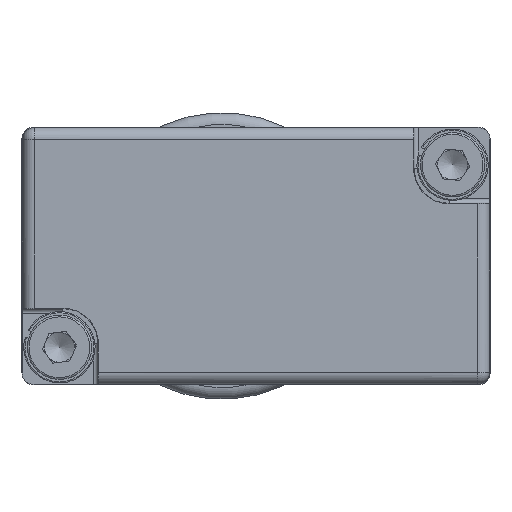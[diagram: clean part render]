
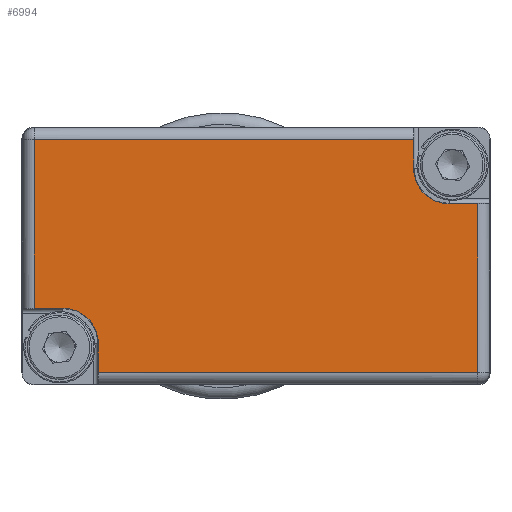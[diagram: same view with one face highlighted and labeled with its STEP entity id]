
A CAD part, left-side view. The second image highlights one B-rep face of the part: STEP entity #6994.
In plain terms, the highlighted planar face has unit normal (-1, 0, 0).
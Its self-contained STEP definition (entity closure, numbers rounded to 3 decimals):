
#14 = VECTOR ( 'NONE', #9544, 1000. ) ;
#22 = LINE ( 'NONE', #9568, #14 ) ;
#117 = EDGE_LOOP ( 'NONE', ( #3042, #3071, #3070, #3069, #3067, #3065, #3062, #3061, #3060, #3029 ) ) ;
#709 = AXIS2_PLACEMENT_3D ( 'NONE', #4332, #4331, #4330 ) ;
#712 = AXIS2_PLACEMENT_3D ( 'NONE', #4360, #4359, #4358 ) ;
#784 = EDGE_CURVE ( 'NONE', #2687, #2710, #22, .T. ) ;
#825 = EDGE_CURVE ( 'NONE', #2710, #2657, #2019, .T. ) ;
#949 = EDGE_CURVE ( 'NONE', #2899, #2657, #1840, .T. ) ;
#951 = EDGE_CURVE ( 'NONE', #2737, #10204, #1836, .T. ) ;
#953 = EDGE_CURVE ( 'NONE', #3055, #2726, #1834, .T. ) ;
#954 = EDGE_CURVE ( 'NONE', #2737, #2763, #1831, .T. ) ;
#966 = EDGE_CURVE ( 'NONE', #2763, #2726, #1824, .T. ) ;
#971 = EDGE_CURVE ( 'NONE', #2609, #3055, #1814, .T. ) ;
#976 = EDGE_CURVE ( 'NONE', #2687, #2609, #1801, .T. ) ;
#980 = EDGE_CURVE ( 'NONE', #10204, #2899, #1794, .T. ) ;
#1794 = CIRCLE ( 'NONE', #709, 3.034 ) ;
#1799 = VECTOR ( 'NONE', #4341, 1000. ) ;
#1801 = LINE ( 'NONE', #4342, #1799 ) ;
#1812 = VECTOR ( 'NONE', #4376, 1000. ) ;
#1814 = CIRCLE ( 'NONE', #712, 3.034 ) ;
#1824 = LINE ( 'NONE', #4413, #1812 ) ;
#1829 = VECTOR ( 'NONE', #4475, 1000. ) ;
#1831 = LINE ( 'NONE', #4481, #1829 ) ;
#1833 = VECTOR ( 'NONE', #4519, 1000. ) ;
#1834 = LINE ( 'NONE', #4491, #1845 ) ;
#1836 = LINE ( 'NONE', #4525, #1833 ) ;
#1837 = VECTOR ( 'NONE', #4529, 1000. ) ;
#1840 = LINE ( 'NONE', #4533, #1837 ) ;
#1845 = VECTOR ( 'NONE', #4482, 1000. ) ;
#2014 = VECTOR ( 'NONE', #4807, 1000. ) ;
#2019 = LINE ( 'NONE', #4798, #2014 ) ;
#2609 = VERTEX_POINT ( 'NONE', #7763 ) ;
#2657 = VERTEX_POINT ( 'NONE', #7676 ) ;
#2687 = VERTEX_POINT ( 'NONE', #7427 ) ;
#2710 = VERTEX_POINT ( 'NONE', #7410 ) ;
#2726 = VERTEX_POINT ( 'NONE', #8242 ) ;
#2737 = VERTEX_POINT ( 'NONE', #8230 ) ;
#2763 = VERTEX_POINT ( 'NONE', #8206 ) ;
#2899 = VERTEX_POINT ( 'NONE', #8143 ) ;
#3029 = ORIENTED_EDGE ( 'NONE', *, *, #951, .F. ) ;
#3042 = ORIENTED_EDGE ( 'NONE', *, *, #954, .T. ) ;
#3055 = VERTEX_POINT ( 'NONE', #8137 ) ;
#3060 = ORIENTED_EDGE ( 'NONE', *, *, #980, .F. ) ;
#3061 = ORIENTED_EDGE ( 'NONE', *, *, #949, .F. ) ;
#3062 = ORIENTED_EDGE ( 'NONE', *, *, #825, .T. ) ;
#3065 = ORIENTED_EDGE ( 'NONE', *, *, #784, .T. ) ;
#3067 = ORIENTED_EDGE ( 'NONE', *, *, #976, .F. ) ;
#3069 = ORIENTED_EDGE ( 'NONE', *, *, #971, .F. ) ;
#3070 = ORIENTED_EDGE ( 'NONE', *, *, #953, .F. ) ;
#3071 = ORIENTED_EDGE ( 'NONE', *, *, #966, .T. ) ;
#4330 = DIRECTION ( 'NONE',  ( 0., 0., -1. ) ) ;
#4331 = DIRECTION ( 'NONE',  ( -1., 0., 0. ) ) ;
#4332 = CARTESIAN_POINT ( 'NONE',  ( -59.4, 13.6, -7.5 ) ) ;
#4341 = DIRECTION ( 'NONE',  ( 0., 0., -1. ) ) ;
#4342 = CARTESIAN_POINT ( 'NONE',  ( -59.4, -16.366, 7.5 ) ) ;
#4358 = DIRECTION ( 'NONE',  ( 0., 0., -1. ) ) ;
#4359 = DIRECTION ( 'NONE',  ( -1., 0., 0. ) ) ;
#4360 = CARTESIAN_POINT ( 'NONE',  ( -59.4, -19.4, 7.5 ) ) ;
#4376 = DIRECTION ( 'NONE',  ( 0., 0., 1. ) ) ;
#4413 = CARTESIAN_POINT ( 'NONE',  ( -59.4, -21.86, 4.466 ) ) ;
#4475 = DIRECTION ( 'NONE',  ( 0., -1., 0. ) ) ;
#4481 = CARTESIAN_POINT ( 'NONE',  ( -59.4, -21.857, -9.96 ) ) ;
#4482 = DIRECTION ( 'NONE',  ( 0., -1., 0. ) ) ;
#4491 = CARTESIAN_POINT ( 'NONE',  ( -59.4, -22.9, 4.466 ) ) ;
#4519 = DIRECTION ( 'NONE',  ( 0., 0., 1. ) ) ;
#4525 = CARTESIAN_POINT ( 'NONE',  ( -59.4, 10.566, -7.5 ) ) ;
#4529 = DIRECTION ( 'NONE',  ( 0., 1., 0. ) ) ;
#4533 = CARTESIAN_POINT ( 'NONE',  ( -59.4, 17.1, -4.466 ) ) ;
#4798 = CARTESIAN_POINT ( 'NONE',  ( -59.4, 16.06, -4.466 ) ) ;
#4807 = DIRECTION ( 'NONE',  ( 0., 0., -1. ) ) ;
#5123 = CARTESIAN_POINT ( 'NONE',  ( -59.4, 10.566, -7.5 ) ) ;
#5282 = DIRECTION ( 'NONE',  ( 0., 0., -1. ) ) ;
#5283 = DIRECTION ( 'NONE',  ( 1., 0., 0. ) ) ;
#5284 = CARTESIAN_POINT ( 'NONE',  ( -59.4, -22.9, 11. ) ) ;
#5292 = PLANE ( 'NONE',  #9446 ) ;
#6141 = FACE_OUTER_BOUND ( 'NONE', #117, .T. ) ;
#6994 = ADVANCED_FACE ( 'NONE', ( #6141 ), #5292, .F. ) ;
#7410 = CARTESIAN_POINT ( 'NONE',  ( -59.4, 16.06, 9.96 ) ) ;
#7427 = CARTESIAN_POINT ( 'NONE',  ( -59.4, -16.366, 9.96 ) ) ;
#7676 = CARTESIAN_POINT ( 'NONE',  ( -59.4, 16.06, -4.466 ) ) ;
#7763 = CARTESIAN_POINT ( 'NONE',  ( -59.4, -16.366, 7.5 ) ) ;
#8137 = CARTESIAN_POINT ( 'NONE',  ( -59.4, -19.4, 4.466 ) ) ;
#8143 = CARTESIAN_POINT ( 'NONE',  ( -59.4, 13.6, -4.466 ) ) ;
#8206 = CARTESIAN_POINT ( 'NONE',  ( -59.4, -21.86, -9.96 ) ) ;
#8230 = CARTESIAN_POINT ( 'NONE',  ( -59.4, 10.566, -9.96 ) ) ;
#8242 = CARTESIAN_POINT ( 'NONE',  ( -59.4, -21.86, 4.466 ) ) ;
#9446 = AXIS2_PLACEMENT_3D ( 'NONE', #5284, #5283, #5282 ) ;
#9544 = DIRECTION ( 'NONE',  ( 0., 1., 0. ) ) ;
#9568 = CARTESIAN_POINT ( 'NONE',  ( -59.4, 16.057, 9.96 ) ) ;
#10204 = VERTEX_POINT ( 'NONE', #5123 ) ;
